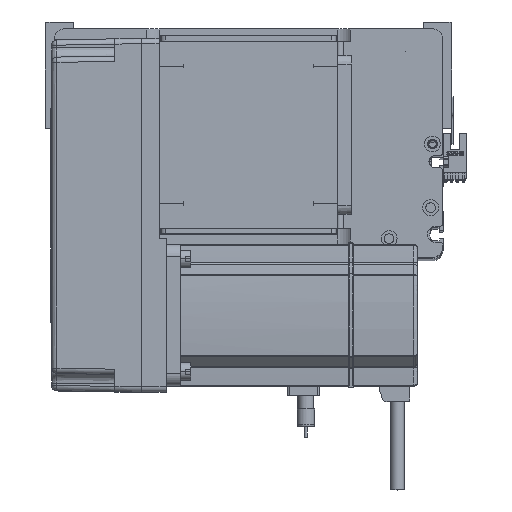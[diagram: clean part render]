
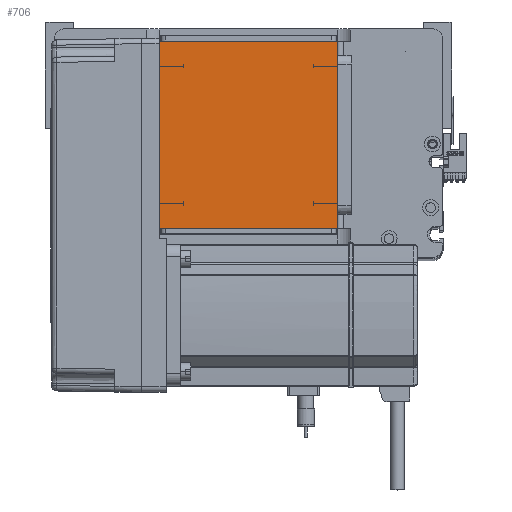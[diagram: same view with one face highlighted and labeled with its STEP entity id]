
A CAD part, top view. The second image highlights one B-rep face of the part: STEP entity #706.
In plain terms, the highlighted planar face has unit normal (0, 0, 1).
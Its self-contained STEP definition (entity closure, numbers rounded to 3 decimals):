
#350 = LINE ( 'NONE', #8239, #15595 ) ;
#706 = ADVANCED_FACE ( 'NONE', ( #7204 ), #20434, .T. ) ;
#4338 = VERTEX_POINT ( 'NONE', #7143 ) ;
#4521 = DIRECTION ( 'NONE',  ( 0., 0., 1. ) ) ;
#5226 = ORIENTED_EDGE ( 'NONE', *, *, #29721, .T. ) ;
#6402 = ORIENTED_EDGE ( 'NONE', *, *, #19612, .T. ) ;
#6886 = CARTESIAN_POINT ( 'NONE',  ( -50.5, 122., 115. ) ) ;
#7143 = CARTESIAN_POINT ( 'NONE',  ( 50.5, 122., 115. ) ) ;
#7204 = FACE_OUTER_BOUND ( 'NONE', #45919, .T. ) ;
#7315 = ORIENTED_EDGE ( 'NONE', *, *, #13191, .T. ) ;
#8239 = CARTESIAN_POINT ( 'NONE',  ( -50.5, 122., 115. ) ) ;
#9272 = VERTEX_POINT ( 'NONE', #18062 ) ;
#10273 = LINE ( 'NONE', #24590, #21286 ) ;
#13191 = EDGE_CURVE ( 'NONE', #9272, #4338, #10273, .T. ) ;
#15441 = DIRECTION ( 'NONE',  ( -1., 0., 0. ) ) ;
#15595 = VECTOR ( 'NONE', #15950, 1000. ) ;
#15950 = DIRECTION ( 'NONE',  ( 0., -1., 0. ) ) ;
#17176 = VECTOR ( 'NONE', #39325, 1000. ) ;
#18062 = CARTESIAN_POINT ( 'NONE',  ( 50.5, 16., 115. ) ) ;
#18269 = VERTEX_POINT ( 'NONE', #45424 ) ;
#19612 = EDGE_CURVE ( 'NONE', #34792, #9272, #45432, .T. ) ;
#20289 = AXIS2_PLACEMENT_3D ( 'NONE', #47873, #4521, #43915 ) ;
#20434 = PLANE ( 'NONE',  #20289 ) ;
#21286 = VECTOR ( 'NONE', #28691, 1000. ) ;
#24590 = CARTESIAN_POINT ( 'NONE',  ( 50.5, 122., 115. ) ) ;
#25452 = LINE ( 'NONE', #6886, #47530 ) ;
#27447 = EDGE_CURVE ( 'NONE', #4338, #18269, #25452, .T. ) ;
#28691 = DIRECTION ( 'NONE',  ( 0., 1., 0. ) ) ;
#29164 = ORIENTED_EDGE ( 'NONE', *, *, #27447, .T. ) ;
#29721 = EDGE_CURVE ( 'NONE', #18269, #34792, #350, .T. ) ;
#34792 = VERTEX_POINT ( 'NONE', #45189 ) ;
#39325 = DIRECTION ( 'NONE',  ( 1., 0., 0. ) ) ;
#41944 = CARTESIAN_POINT ( 'NONE',  ( -50.5, 16., 115. ) ) ;
#43915 = DIRECTION ( 'NONE',  ( 1., 0., 0. ) ) ;
#45189 = CARTESIAN_POINT ( 'NONE',  ( -50.5, 16., 115. ) ) ;
#45424 = CARTESIAN_POINT ( 'NONE',  ( -50.5, 122., 115. ) ) ;
#45432 = LINE ( 'NONE', #41944, #17176 ) ;
#45919 = EDGE_LOOP ( 'NONE', ( #5226, #6402, #7315, #29164 ) ) ;
#47530 = VECTOR ( 'NONE', #15441, 1000. ) ;
#47873 = CARTESIAN_POINT ( 'NONE',  ( 0., 0., 115. ) ) ;
